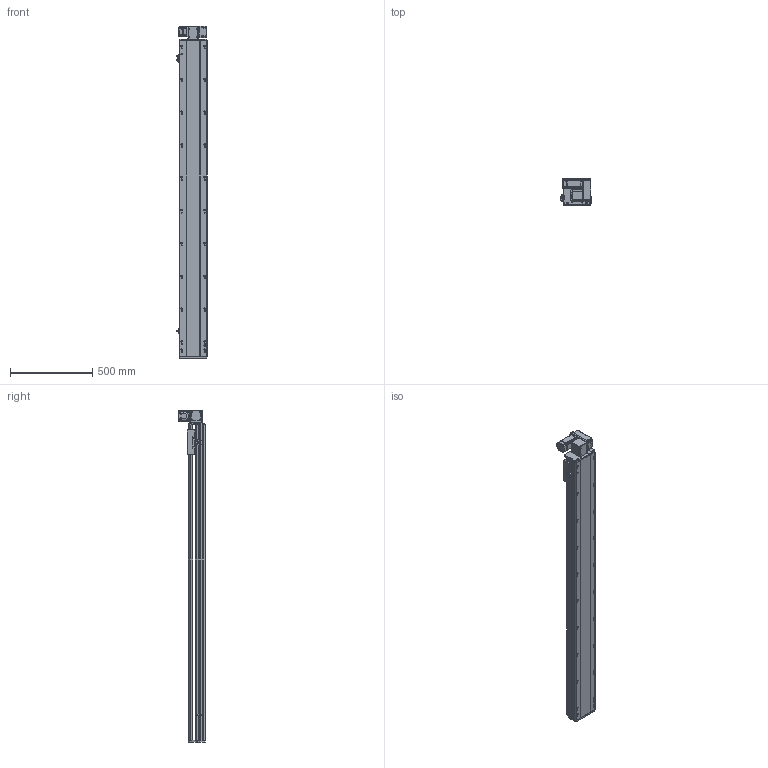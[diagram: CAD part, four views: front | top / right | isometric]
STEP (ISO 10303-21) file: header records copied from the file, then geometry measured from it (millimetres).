
FILE_DESCRIPTION (( 'STEP AP214' ), '1' );
FILE_NAME ('RTB17S-XX-1650-RW-M40-C4.STEP', '2025-12-11T09:04:49', ( '' ), ( '' ), 'SwSTEP 2.0', 'SolidWorks 2018', '' );
FILE_SCHEMA (( 'AUTOMOTIVE_DESIGN' ));
Length unit declared in the file: millimetre
Products named in the file (14): 400W侜督萇儂^RTB17S-XX-XX-RW-M40-C4; OMRON EE-SX672 传感器^RTB17S-XX-XX-RW-M40-C4; RMP17S-L-014-T20--々湍釱^RTB17S-RW-々湍釱蚾饜-400W_RTB17S-XX-XX-RW-M40-C4; RTB17-R-011菁釱^RTB17S-XX-XX-RW-M40-C4; RTB17S-RW-々湍釱蚾饜-400W^RTB17S-XX-XX-RW-M40-C4; RTB17S-L-001耜醱啣^RTB17S-XX-XX-RW-M40-C4; RTB17S-XX-1650-RW-M40-C4; RTH13-BL-012覜茼え俋离^RTB17S-XX-XX-RW-M40-C4; RTB14-L-005P--轴承塑胶压盖^RTB17S-RW-皮带座装配-400W_RTB17S-XX-XX-RW-M40-C4; RTB17S-L-007奻裔^RTB17S-XX-XX-RW-M40-C4; RTB17S-L-004佪裝蹟譫蟀諉釱^RTB17S-XX-XX-RW-M40-C4; RTB14-L-017P^RTB17S-RW-々湍釱蚾饜-400W_RTB17S-XX-XX-RW-M40-C4; RTB14-L-018P^RTB17S-RW-々湍釱蚾饜-400W_RTB17S-XX-XX-RW-M40-C4; RTB14-L-008-M20--萇儂啣^RTB17S-RW-々湍釱蚾饜-400W_RTB17S-XX-XX-RW-M40-C4
Assembly tree (16 placements, depth 3):
  RTB17S-XX-1650-RW-M40-C4
    RTB17-R-011菁釱^RTB17S-XX-XX-RW-M40-C4
    RTB17S-L-007奻裔^RTB17S-XX-XX-RW-M40-C4
    OMRON EE-SX672 传感器^RTB17S-XX-XX-RW-M40-C4  x3
    RTB17S-L-001耜醱啣^RTB17S-XX-XX-RW-M40-C4
    400W侜督萇儂^RTB17S-XX-XX-RW-M40-C4
    RTB17S-L-004佪裝蹟譫蟀諉釱^RTB17S-XX-XX-RW-M40-C4
    RTH13-BL-012覜茼え俋离^RTB17S-XX-XX-RW-M40-C4
    RTB17S-RW-々湍釱蚾饜-400W^RTB17S-XX-XX-RW-M40-C4
      RMP17S-L-014-T20--々湍釱^RTB17S-RW-々湍釱蚾饜-400W_RTB17S-XX-XX-RW-M40-C4
      RTB14-L-005P--轴承塑胶压盖^RTB17S-RW-皮带座装配-400W_RTB17S-XX-XX-RW-M40-C4
      RTB14-L-008-M20--萇儂啣^RTB17S-RW-々湍釱蚾饜-400W_RTB17S-XX-XX-RW-M40-C4
      RTB14-L-017P^RTB17S-RW-々湍釱蚾饜-400W_RTB17S-XX-XX-RW-M40-C4  x2
      RTB14-L-018P^RTB17S-RW-々湍釱蚾饜-400W_RTB17S-XX-XX-RW-M40-C4
Bounding box: 183.5 x 160.5 x 2022.5 mm (x, y, z)
Volume: 17669812 mm3; surface area: 2077902.9 mm2
Topology: 15 solids, 15 shells, 2269 faces, 6303 edges, 4113 vertices
Faces by surface type: plane 1076, cylinder 745, bspline 301, cone 139, torus 8
Entity records: 65705 total; most frequent: CARTESIAN_POINT 18508, ORIENTED_EDGE 9450, DIRECTION 8756, EDGE_CURVE 4725, VERTEX_POINT 3101, AXIS2_PLACEMENT_3D 3031, LINE 2694, VECTOR 2694
